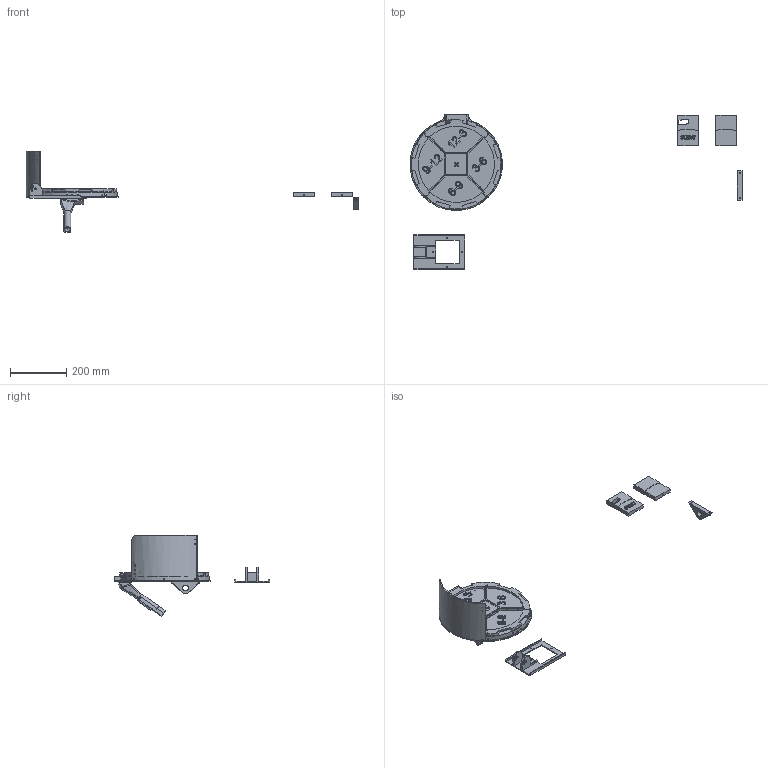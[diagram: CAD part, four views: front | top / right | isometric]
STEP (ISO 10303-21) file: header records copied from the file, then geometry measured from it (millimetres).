
FILE_DESCRIPTION(/* description */ (''),/* implementation_level */ '2;1');
FILE_NAME(/* name */ 'C:/gcode/3d-printer/dillion-case-feeder/Bullet-and-case-collators-mid-july2018.step',/* time_stamp */ '2018-07-22T09:57:05+12:00',/* author */ ('thing.thing'),/* organization */ (''),/* preprocessor_version */ 'ST-DEVELOPER v17',/* originating_system */ 'Autodesk Translation Framework v7.1.0.215',/* authorisation */ '');
FILE_SCHEMA (('AUTOMOTIVE_DESIGN { 1 0 10303 214 3 1 1 }'));
Products named in the file (5): Assembly 1; mk1d-base-motor-case-collator; mk1-feed-plate-case-collator; Component13; 308-case-plate
Assembly tree (4 placements, depth 2):
  Assembly 1
    mk1d-base-motor-case-collator
    mk1-feed-plate-case-collator
    Component13
    308-case-plate
Bounding box: 1177 x 549.63 x 287.95 mm (x, y, z)
Volume: 1607959.3 mm3; surface area: 684120.1 mm2
Topology: 17 solids, 18 shells, 1406 faces, 3925 edges, 2622 vertices
Faces by surface type: plane 608, bspline 530, cylinder 259, torus 7, cone 2
Full cylindrical faces by diameter (mm): 3.2 x71, 3.8 x29, 4.2 x12, 5.2 x4, 5.3 x4, 6 x1, 6.5 x2, 12 x4, 14 x1, 18.7 x1, 21 x1, 32 x1
Entity records: 52531 total; most frequent: CARTESIAN_POINT 19048, ORIENTED_EDGE 7852, DIRECTION 5129, EDGE_CURVE 3926, VERTEX_POINT 2622, LINE 2149, VECTOR 2149, EDGE_LOOP 1690
